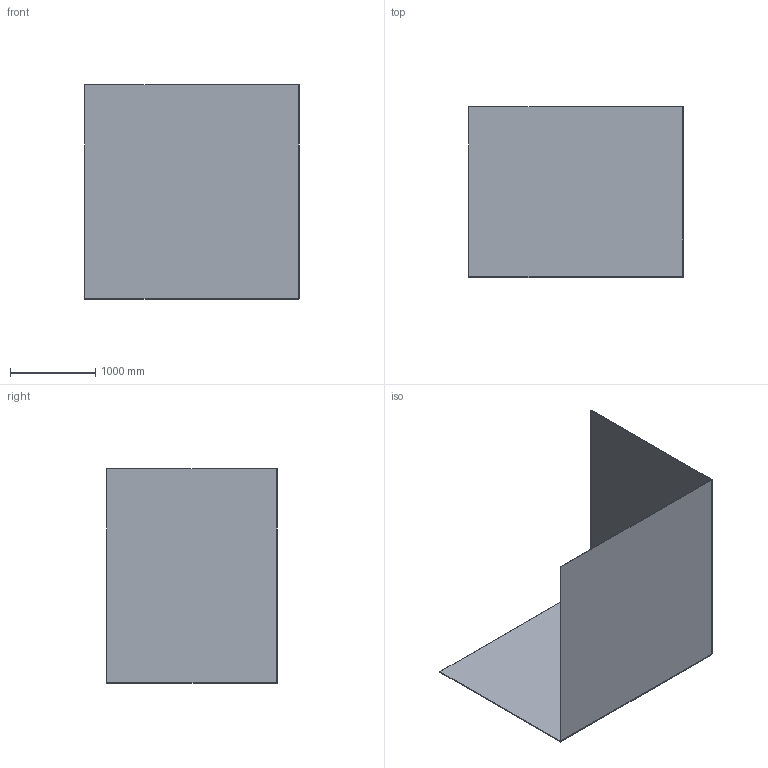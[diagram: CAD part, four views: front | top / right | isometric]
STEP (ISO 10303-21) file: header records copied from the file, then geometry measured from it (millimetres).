
FILE_DESCRIPTION(/* description */ (''),/* implementation_level */ '2;1');
FILE_NAME(/* name */ 'C:\Users\andre\Documents\SQA\Assignment\2022\_ItemV1\STEP Files\Walls and Floor.stp',/* time_stamp */ '2020-08-16T13:01:10+01:00',/* author */ ('andre'),/* organization */ (''),/* preprocessor_version */ 'ST-DEVELOPER v17.2',/* originating_system */ 'Autodesk Inventor 2019',/* authorisation */ '');
FILE_SCHEMA (('AUTOMOTIVE_DESIGN { 1 0 10303 214 3 1 1 }'));
Length unit declared in the file: millimetre
Products named in the file (4): Walls and Floor; Floor; Wall1; Wall2
Assembly tree (3 placements, depth 2):
  Walls and Floor
    Floor
    Wall1
    Wall2
Bounding box: 2510 x 2000 x 2510 mm (x, y, z)
Volume: 162500000 mm3; surface area: 32780000 mm2
Topology: 3 solids, 3 shells, 18 faces, 36 edges, 24 vertices
Faces by surface type: plane 18
Entity records: 603 total; most frequent: DIRECTION 86, CARTESIAN_POINT 85, ORIENTED_EDGE 72, LINE 36, VECTOR 36, EDGE_CURVE 36, AXIS2_PLACEMENT_3D 25, VERTEX_POINT 24
